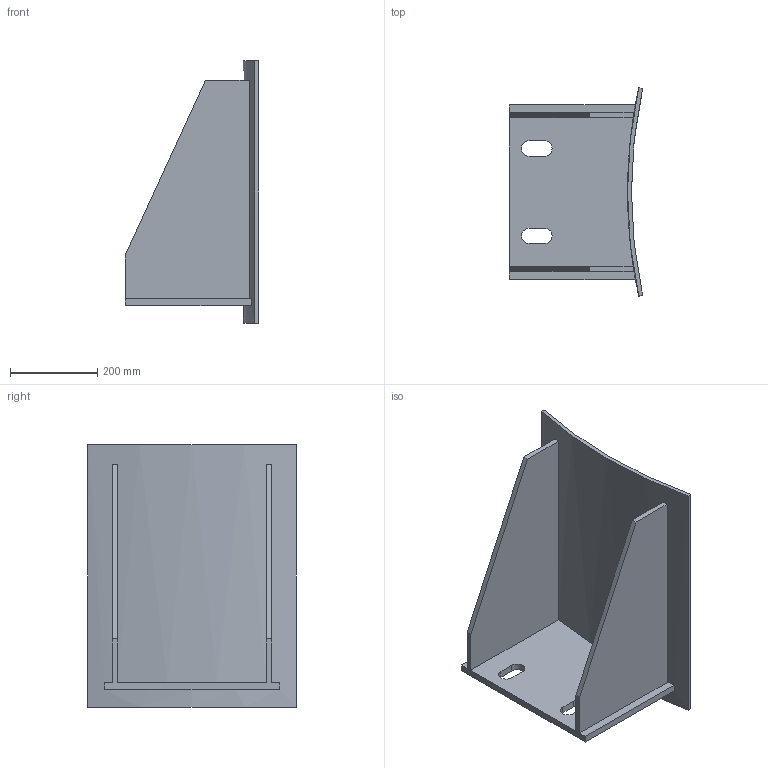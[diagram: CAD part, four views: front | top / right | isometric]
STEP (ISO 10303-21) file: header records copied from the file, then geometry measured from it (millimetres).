
FILE_DESCRIPTION(/* description */ (''),/* implementation_level */ '2;1');
FILE_NAME(/* name */ 'C:\Users\D\Documents\Inventor\HP\JPI\竪型容器用ラグサポート\軽荷重用ラグサポート Light-duty lug support\ld-lug-support-d2200.stp',/* time_stamp */ '2026-02-05T16:55:52+09:00',/* author */ ('D'),/* organization */ (''),/* preprocessor_version */ 'ST-DEVELOPER v18',/* originating_system */ 'Autodesk Inventor 2020',/* authorisation */ '');
FILE_SCHEMA (('AUTOMOTIVE_DESIGN { 1 0 10303 214 3 1 1 }'));
Length unit declared in the file: millimetre
Products named in the file (1): light-duty lug support
Bounding box: 304.45 x 476.32 x 600 mm (x, y, z)
Volume: 6795531.4 mm3; surface area: 1260238.5 mm2
Topology: 1 solids, 1 shells, 31 faces, 80 edges, 52 vertices
Faces by surface type: plane 25, cylinder 6
Entity records: 1001 total; most frequent: CARTESIAN_POINT 166, ORIENTED_EDGE 164, DIRECTION 162, EDGE_CURVE 82, LINE 66, VECTOR 66, VERTEX_POINT 52, AXIS2_PLACEMENT_3D 48
